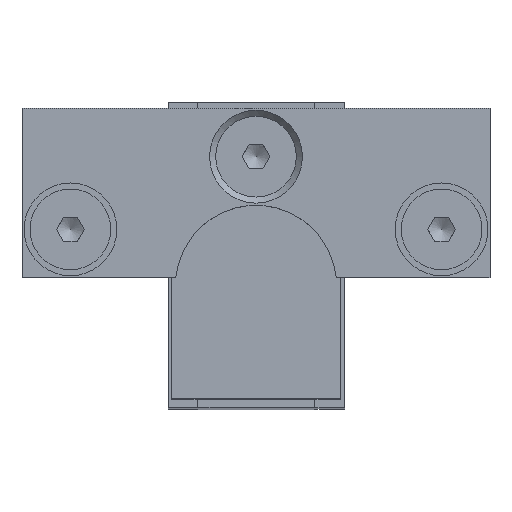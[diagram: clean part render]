
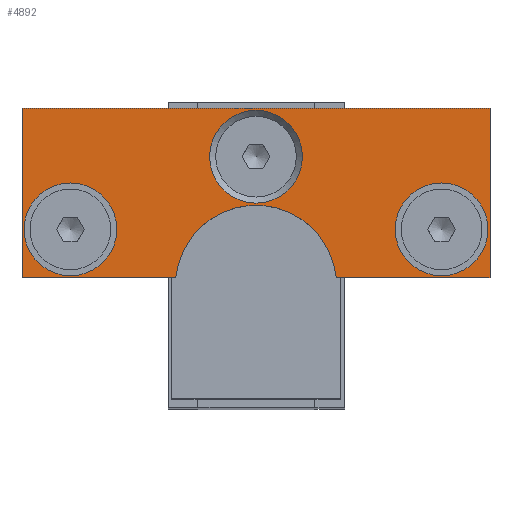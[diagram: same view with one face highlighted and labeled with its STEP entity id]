
A CAD part, top view. The second image highlights one B-rep face of the part: STEP entity #4892.
In plain terms, the highlighted planar face has unit normal (0, 0, 1).
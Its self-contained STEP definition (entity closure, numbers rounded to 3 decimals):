
#138=FACE_BOUND('',#1359,.T.);
#139=FACE_BOUND('',#1360,.T.);
#140=FACE_BOUND('',#1361,.T.);
#213=PLANE('',#5327);
#379=LINE('',#7613,#678);
#380=LINE('',#7615,#679);
#381=LINE('',#7617,#680);
#382=LINE('',#7621,#681);
#383=LINE('',#7622,#682);
#678=VECTOR('',#6067,10.);
#679=VECTOR('',#6068,10.);
#680=VECTOR('',#6069,10.);
#681=VECTOR('',#6072,10.);
#682=VECTOR('',#6073,10.);
#1075=FACE_OUTER_BOUND('',#1358,.T.);
#1358=EDGE_LOOP('',(#3358,#3359,#3360,#3361,#3362,#3363));
#1359=EDGE_LOOP('',(#3364));
#1360=EDGE_LOOP('',(#3365));
#1361=EDGE_LOOP('',(#3366));
#1697=CIRCLE('',#5325,5.75);
#1699=CIRCLE('',#5328,10.);
#1700=CIRCLE('',#5329,5.75);
#1701=CIRCLE('',#5330,5.75);
#2049=VERTEX_POINT('',#7605);
#2051=VERTEX_POINT('',#7611);
#2052=VERTEX_POINT('',#7612);
#2053=VERTEX_POINT('',#7614);
#2054=VERTEX_POINT('',#7616);
#2055=VERTEX_POINT('',#7618);
#2056=VERTEX_POINT('',#7620);
#2057=VERTEX_POINT('',#7623);
#2058=VERTEX_POINT('',#7625);
#2568=EDGE_CURVE('',#2049,#2049,#1697,.T.);
#2571=EDGE_CURVE('',#2051,#2052,#379,.T.);
#2572=EDGE_CURVE('',#2052,#2053,#380,.T.);
#2573=EDGE_CURVE('',#2053,#2054,#381,.T.);
#2574=EDGE_CURVE('',#2054,#2055,#1699,.T.);
#2575=EDGE_CURVE('',#2055,#2056,#382,.T.);
#2576=EDGE_CURVE('',#2056,#2051,#383,.T.);
#2577=EDGE_CURVE('',#2057,#2057,#1700,.T.);
#2578=EDGE_CURVE('',#2058,#2058,#1701,.T.);
#3358=ORIENTED_EDGE('',*,*,#2571,.T.);
#3359=ORIENTED_EDGE('',*,*,#2572,.T.);
#3360=ORIENTED_EDGE('',*,*,#2573,.T.);
#3361=ORIENTED_EDGE('',*,*,#2574,.T.);
#3362=ORIENTED_EDGE('',*,*,#2575,.T.);
#3363=ORIENTED_EDGE('',*,*,#2576,.T.);
#3364=ORIENTED_EDGE('',*,*,#2577,.F.);
#3365=ORIENTED_EDGE('',*,*,#2578,.F.);
#3366=ORIENTED_EDGE('',*,*,#2568,.F.);
#4892=ADVANCED_FACE('',(#1075,#138,#139,#140),#213,.T.);
#5325=AXIS2_PLACEMENT_3D('',#7606,#6060,#6061);
#5327=AXIS2_PLACEMENT_3D('',#7610,#6065,#6066);
#5328=AXIS2_PLACEMENT_3D('',#7619,#6070,#6071);
#5329=AXIS2_PLACEMENT_3D('',#7624,#6074,#6075);
#5330=AXIS2_PLACEMENT_3D('',#7626,#6076,#6077);
#6060=DIRECTION('center_axis',(0.,0.,
1.));
#6061=DIRECTION('ref_axis',(-1.,0.,0.));
#6065=DIRECTION('center_axis',(0.,0.,
1.));
#6066=DIRECTION('ref_axis',(1.,0.,0.));
#6067=DIRECTION('',(-1.,0.,0.));
#6068=DIRECTION('',(0.,-1.,0.));
#6069=DIRECTION('',(1.,0.,0.));
#6070=DIRECTION('center_axis',(0.,0.,
-1.));
#6071=DIRECTION('ref_axis',(0.995,0.1,0.));
#6072=DIRECTION('',(1.,0.,0.));
#6073=DIRECTION('',(0.,1.,0.));
#6074=DIRECTION('center_axis',(0.,0.,
1.));
#6075=DIRECTION('ref_axis',(-1.,0.,0.));
#6076=DIRECTION('center_axis',(0.,0.,
1.));
#6077=DIRECTION('ref_axis',(-1.,0.,0.));
#7605=CARTESIAN_POINT('',(39.65,22.,116.));
#7606=CARTESIAN_POINT('Origin',(33.9,22.,116.));
#7610=CARTESIAN_POINT('Origin',(10.9,27.153,116.));
#7611=CARTESIAN_POINT('',(39.9,37.,116.));
#7612=CARTESIAN_POINT('',(-18.1,37.,116.));
#7613=CARTESIAN_POINT('',(-18.1,37.,116.));
#7614=CARTESIAN_POINT('',(-18.1,16.,116.));
#7615=CARTESIAN_POINT('',(-18.1,16.,116.));
#7616=CARTESIAN_POINT('',(0.95,16.,116.));
#7617=CARTESIAN_POINT('',(0.95,16.,116.));
#7618=CARTESIAN_POINT('',(20.85,16.,116.));
#7619=CARTESIAN_POINT('Origin',(10.9,15.,116.));
#7620=CARTESIAN_POINT('',(39.9,16.,116.));
#7621=CARTESIAN_POINT('',(39.9,16.,116.));
#7622=CARTESIAN_POINT('',(39.9,37.,116.));
#7623=CARTESIAN_POINT('',(16.65,31.,116.));
#7624=CARTESIAN_POINT('Origin',(10.9,31.,116.));
#7625=CARTESIAN_POINT('',(-6.35,22.,116.));
#7626=CARTESIAN_POINT('Origin',(-12.1,22.,116.));
